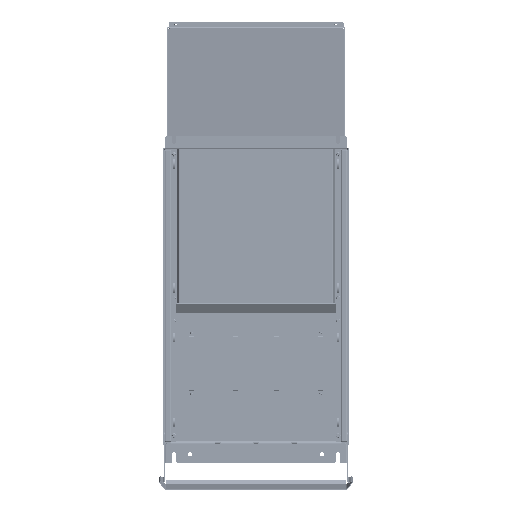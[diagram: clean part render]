
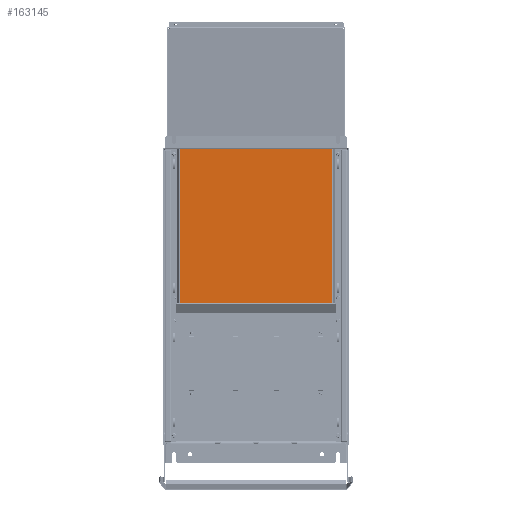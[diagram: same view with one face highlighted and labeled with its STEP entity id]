
A CAD part, front view. The second image highlights one B-rep face of the part: STEP entity #163145.
In plain terms, the highlighted planar face has unit normal (0, -1, 0).
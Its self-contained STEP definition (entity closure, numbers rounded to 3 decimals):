
#33134=DIRECTION('',(1.,0.,0.));
#33135=VECTOR('',#33134,308.117);
#33136=CARTESIAN_POINT('',(-154.059,0.05,-15.));
#33137=LINE('',#33136,#33135);
#47733=DIRECTION('',(-1.,0.,0.));
#47734=VECTOR('',#47733,308.117);
#47735=CARTESIAN_POINT('',(154.059,0.05,295.));
#47736=LINE('',#47735,#47734);
#47754=DIRECTION('',(0.,0.,1.));
#47755=VECTOR('',#47754,310.);
#47756=CARTESIAN_POINT('',(154.059,0.05,-15.));
#47757=LINE('',#47756,#47755);
#47762=DIRECTION('',(0.,0.,-1.));
#47763=VECTOR('',#47762,310.);
#47764=CARTESIAN_POINT('',(-154.059,0.05,295.));
#47765=LINE('',#47764,#47763);
#76020=CARTESIAN_POINT('',(154.059,0.05,295.));
#76021=VERTEX_POINT('',#76020);
#76022=CARTESIAN_POINT('',(-154.059,0.05,295.));
#76023=VERTEX_POINT('',#76022);
#76034=CARTESIAN_POINT('',(-154.059,0.05,-15.));
#76035=VERTEX_POINT('',#76034);
#76036=CARTESIAN_POINT('',(154.059,0.05,-15.));
#76037=VERTEX_POINT('',#76036);
#163133=CARTESIAN_POINT('',(-155.517,0.05,-15.));
#163134=DIRECTION('',(0.,-1.,0.));
#163135=DIRECTION('',(1.,0.,0.));
#163136=AXIS2_PLACEMENT_3D('',#163133,#163134,#163135);
#163137=PLANE('',#163136);
#163138=ORIENTED_EDGE('',*,*,#163083,.F.);
#163139=ORIENTED_EDGE('',*,*,#163127,.F.);
#163140=ORIENTED_EDGE('',*,*,#137827,.F.);
#163142=ORIENTED_EDGE('',*,*,#163141,.F.);
#163143=EDGE_LOOP('',(#163138,#163139,#163140,#163142));
#163144=FACE_OUTER_BOUND('',#163143,.F.);
#163145=ADVANCED_FACE('',(#163144),#163137,.T.);
#137827=EDGE_CURVE('',#76035,#76037,#33137,.T.);
#163083=EDGE_CURVE('',#76021,#76023,#47736,.T.);
#163127=EDGE_CURVE('',#76037,#76021,#47757,.T.);
#163141=EDGE_CURVE('',#76023,#76035,#47765,.T.);
